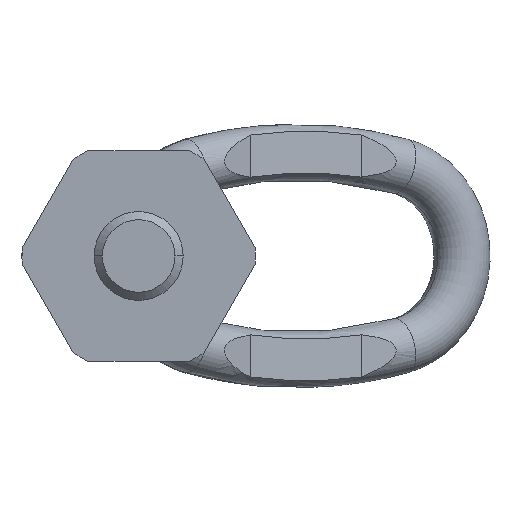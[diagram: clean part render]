
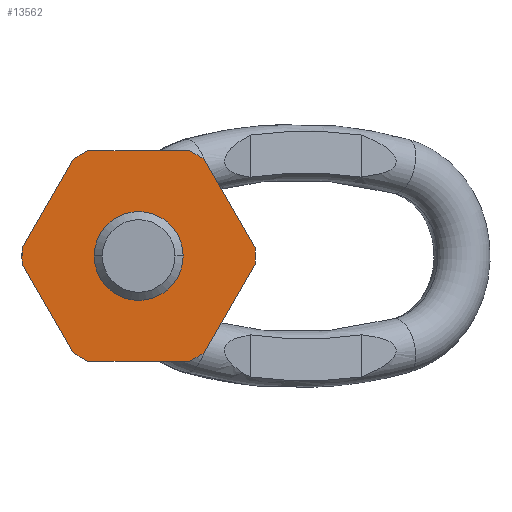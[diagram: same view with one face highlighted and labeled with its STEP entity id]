
A CAD part, front view. The second image highlights one B-rep face of the part: STEP entity #13562.
In plain terms, the highlighted planar face has unit normal (0, -1, 0).
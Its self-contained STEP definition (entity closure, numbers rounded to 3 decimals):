
#10115=DIRECTION('',(0.5,0.,-0.866));
#10116=VECTOR('',#10115,43.589);
#10117=CARTESIAN_POINT('',(-49.868,0.,-3.625));
#10118=LINE('',#10117,#10116);
#10119=DIRECTION('',(0.5,0.,0.866));
#10120=VECTOR('',#10119,43.589);
#10121=CARTESIAN_POINT('',(-49.868,0.,3.625));
#10122=LINE('',#10121,#10120);
#10123=CARTESIAN_POINT('',(0.,0.,0.));
#10124=DIRECTION('',(0.,1.,0.));
#10125=DIRECTION('',(-0.561,0.,0.827));
#10126=AXIS2_PLACEMENT_3D('',#10123,#10124,#10125);
#10128=DIRECTION('',(-1.,0.,0.));
#10129=VECTOR('',#10128,43.589);
#10130=CARTESIAN_POINT('',(21.794,0.,45.));
#10131=LINE('',#10130,#10129);
#10132=CARTESIAN_POINT('',(0.,0.,0.));
#10133=DIRECTION('',(0.,1.,0.));
#10134=DIRECTION('',(0.436,0.,0.9));
#10135=AXIS2_PLACEMENT_3D('',#10132,#10133,#10134);
#10137=DIRECTION('',(-0.5,0.,0.866));
#10138=VECTOR('',#10137,43.589);
#10139=CARTESIAN_POINT('',(49.868,0.,3.625));
#10140=LINE('',#10139,#10138);
#10141=DIRECTION('',(-0.5,0.,-0.866));
#10142=VECTOR('',#10141,43.589);
#10143=CARTESIAN_POINT('',(49.868,0.,-3.625));
#10144=LINE('',#10143,#10142);
#10145=CARTESIAN_POINT('',(0.,0.,0.));
#10146=DIRECTION('',(0.,1.,0.));
#10147=DIRECTION('',(0.561,0.,-0.827));
#10148=AXIS2_PLACEMENT_3D('',#10145,#10146,#10147);
#10150=DIRECTION('',(1.,0.,0.));
#10151=VECTOR('',#10150,43.589);
#10152=CARTESIAN_POINT('',(-21.794,0.,-45.));
#10153=LINE('',#10152,#10151);
#10154=CARTESIAN_POINT('',(0.,0.,0.));
#10155=DIRECTION('',(0.,1.,0.));
#10156=DIRECTION('',(-0.436,0.,-0.9));
#10157=AXIS2_PLACEMENT_3D('',#10154,#10155,#10156);
#10159=CARTESIAN_POINT('',(0.,0.,0.));
#10160=DIRECTION('',(0.,-1.,0.));
#10161=DIRECTION('',(1.,0.,0.));
#10162=AXIS2_PLACEMENT_3D('',#10159,#10160,#10161);
#10164=CARTESIAN_POINT('',(0.,0.,0.));
#10165=DIRECTION('',(0.,-1.,0.));
#10166=DIRECTION('',(-1.,0.,0.));
#10167=AXIS2_PLACEMENT_3D('',#10164,#10165,#10166);
#10182=CARTESIAN_POINT('',(0.,0.,0.));
#10183=DIRECTION('',(0.,-1.,0.));
#10184=DIRECTION('',(-0.997,0.,0.073));
#10185=AXIS2_PLACEMENT_3D('',#10182,#10183,#10184);
#10187=CARTESIAN_POINT('',(0.,0.,0.));
#10188=DIRECTION('',(0.,-1.,0.));
#10189=DIRECTION('',(0.997,0.,-0.073));
#10190=AXIS2_PLACEMENT_3D('',#10187,#10188,#10189);
#12681=CARTESIAN_POINT('',(-49.868,0.,-3.625));
#12682=CARTESIAN_POINT('',(-28.074,0.,-41.375));
#12683=VERTEX_POINT('',#12681);
#12684=VERTEX_POINT('',#12682);
#12685=CARTESIAN_POINT('',(-21.794,0.,-45.));
#12686=CARTESIAN_POINT('',(21.794,0.,-45.));
#12687=VERTEX_POINT('',#12685);
#12688=VERTEX_POINT('',#12686);
#12689=CARTESIAN_POINT('',(49.868,0.,-3.625));
#12690=CARTESIAN_POINT('',(28.074,0.,-41.375));
#12691=VERTEX_POINT('',#12689);
#12692=VERTEX_POINT('',#12690);
#12693=CARTESIAN_POINT('',(49.868,0.,3.625));
#12694=CARTESIAN_POINT('',(28.074,0.,41.375));
#12695=VERTEX_POINT('',#12693);
#12696=VERTEX_POINT('',#12694);
#12697=CARTESIAN_POINT('',(21.794,0.,45.));
#12698=CARTESIAN_POINT('',(-21.794,0.,45.));
#12699=VERTEX_POINT('',#12697);
#12700=VERTEX_POINT('',#12698);
#12701=CARTESIAN_POINT('',(-49.868,0.,3.625));
#12702=CARTESIAN_POINT('',(-28.074,0.,41.375));
#12703=VERTEX_POINT('',#12701);
#12704=VERTEX_POINT('',#12702);
#12765=CARTESIAN_POINT('',(16.15,0.,0.));
#12766=CARTESIAN_POINT('',(-16.15,0.,0.));
#12767=VERTEX_POINT('',#12765);
#12768=VERTEX_POINT('',#12766);
#13525=CARTESIAN_POINT('',(0.,0.,0.));
#13526=DIRECTION('',(0.,1.,0.));
#13527=DIRECTION('',(1.,0.,0.));
#13528=AXIS2_PLACEMENT_3D('',#13525,#13526,#13527);
#13529=PLANE('',#13528);
#13531=ORIENTED_EDGE('',*,*,#13530,.F.);
#13533=ORIENTED_EDGE('',*,*,#13532,.F.);
#13535=ORIENTED_EDGE('',*,*,#13534,.T.);
#13537=ORIENTED_EDGE('',*,*,#13536,.T.);
#13539=ORIENTED_EDGE('',*,*,#13538,.F.);
#13541=ORIENTED_EDGE('',*,*,#13540,.T.);
#13543=ORIENTED_EDGE('',*,*,#13542,.F.);
#13545=ORIENTED_EDGE('',*,*,#13544,.F.);
#13547=ORIENTED_EDGE('',*,*,#13546,.T.);
#13549=ORIENTED_EDGE('',*,*,#13548,.T.);
#13551=ORIENTED_EDGE('',*,*,#13550,.F.);
#13553=ORIENTED_EDGE('',*,*,#13552,.T.);
#13554=EDGE_LOOP('',(#13531,#13533,#13535,#13537,#13539,#13541,#13543,#13545,
#13547,#13549,#13551,#13553));
#13555=FACE_OUTER_BOUND('',#13554,.F.);
#13557=ORIENTED_EDGE('',*,*,#13556,.T.);
#13559=ORIENTED_EDGE('',*,*,#13558,.T.);
#13560=EDGE_LOOP('',(#13557,#13559));
#13561=FACE_BOUND('',#13560,.F.);
#13562=ADVANCED_FACE('',(#13555,#13561),#13529,.F.);
#10127=CIRCLE('',#10126,50.);
#10136=CIRCLE('',#10135,50.);
#10149=CIRCLE('',#10148,50.);
#10158=CIRCLE('',#10157,50.);
#10163=CIRCLE('',#10162,16.15);
#10168=CIRCLE('',#10167,16.15);
#10186=CIRCLE('',#10185,50.);
#10191=CIRCLE('',#10190,50.);
#13530=EDGE_CURVE('',#12683,#12684,#10118,.T.);
#13532=EDGE_CURVE('',#12703,#12683,#10186,.T.);
#13534=EDGE_CURVE('',#12703,#12704,#10122,.T.);
#13536=EDGE_CURVE('',#12704,#12700,#10127,.T.);
#13538=EDGE_CURVE('',#12699,#12700,#10131,.T.);
#13540=EDGE_CURVE('',#12699,#12696,#10136,.T.);
#13542=EDGE_CURVE('',#12695,#12696,#10140,.T.);
#13544=EDGE_CURVE('',#12691,#12695,#10191,.T.);
#13546=EDGE_CURVE('',#12691,#12692,#10144,.T.);
#13548=EDGE_CURVE('',#12692,#12688,#10149,.T.);
#13550=EDGE_CURVE('',#12687,#12688,#10153,.T.);
#13552=EDGE_CURVE('',#12687,#12684,#10158,.T.);
#13556=EDGE_CURVE('',#12767,#12768,#10163,.T.);
#13558=EDGE_CURVE('',#12768,#12767,#10168,.T.);
